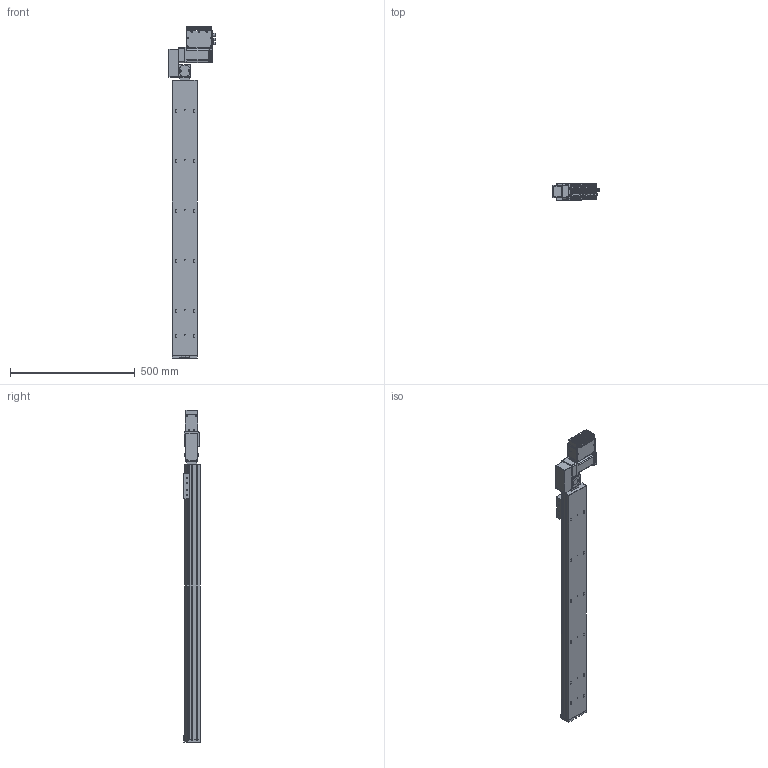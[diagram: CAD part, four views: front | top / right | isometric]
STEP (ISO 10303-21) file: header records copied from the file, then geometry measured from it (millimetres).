
FILE_DESCRIPTION (( 'STEP AP203' ), '1' );
FILE_NAME ('S10 TBN LH S1100.STEP', '2012-06-18T09:39:43', ( 'Conseil Régional Haute-Normandie' ), ( 'Conseil Régional Haute-Normandie' ), 'SwSTEP 2.0', 'SolidWorks 2010', '' );
FILE_SCHEMA (( 'CONFIG_CONTROL_DESIGN' ));
Length unit declared in the file: millimetre
Products named in the file (26): Assem1_7; Plaque racord_Default; T_X2_00F4_X0_le contre le moteur_5; Couvercle_3; Radiateur profil_X2_00E9_X0_ 100x25_3; Colonnette ronde_3; S10 TBN LH S1100; axe 1100; embout; palette tbn; cache t皻e_Default; vis M5 L5_Default; cache t皻e axe_Default; renvoi LH_Default; BU41 Carte Alimentation P05_3; Colonnette_3; BU45 Carte d''axe A11_5; Moteur 60BLDC90A_3; T_X2_00F4_X0_le fond_3; Connecteur rond D10 3cts_5; Connecteur rond D12 4cts_5; Sub D 9cts 90_X2_00B_X0__3; T_X2_00F4_X0_le Arri_X2_00E8_X0_re_5; T_X2_00F4_X0_le lat_X2_00E9_X0_rale_5; Vis TF 3 torkx_1_1; Copie de plaque de bout s10_Default^S10 TBN LH S1100
Assembly tree (52 placements, depth 3):
  S10 TBN LH S1100
    vis M5 L5_Default  x4
    cache t皻e_Default  x2
    cache t皻e axe_Default
    Assem1_7
      Vis TF 3 torkx_1_1  x21
      BU41 Carte Alimentation P05_3
      Connecteur rond D12 4cts_5
      Connecteur rond D10 3cts_5  x2
      Colonnette_3  x2
      Sub D 9cts 90_X2_00B_X0__3
      T_X2_00F4_X0_le lat_X2_00E9_X0_rale_5  x2
      Moteur 60BLDC90A_3
      T_X2_00F4_X0_le contre le moteur_5
      Couvercle_3
      Radiateur profil_X2_00E9_X0_ 100x25_3
      T_X2_00F4_X0_le fond_3
      Colonnette ronde_3
      BU45 Carte d''axe A11_5
      T_X2_00F4_X0_le Arri_X2_00E8_X0_re_5
    Plaque racord_Default
    renvoi LH_Default
    palette tbn
    Copie de plaque de bout s10_Default^S10 TBN LH S1100
    axe 1100
    embout
Bounding box: 186.1 x 66.75 x 1328.5 mm (x, y, z)
Volume: 6589837.2 mm3; surface area: 852518.5 mm2
Topology: 51 solids, 51 shells, 2055 faces, 5194 edges, 3367 vertices
Faces by surface type: plane 936, cylinder 934, cone 162, bspline 20, torus 3
Entity records: 45048 total; most frequent: CARTESIAN_POINT 8156, DIRECTION 7321, ORIENTED_EDGE 6668, EDGE_CURVE 3334, AXIS2_PLACEMENT_3D 2721, VERTEX_POINT 2181, VECTOR 1879, LINE 1879
